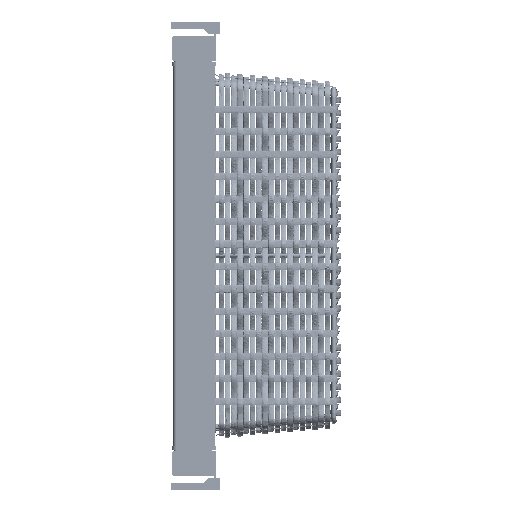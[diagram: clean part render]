
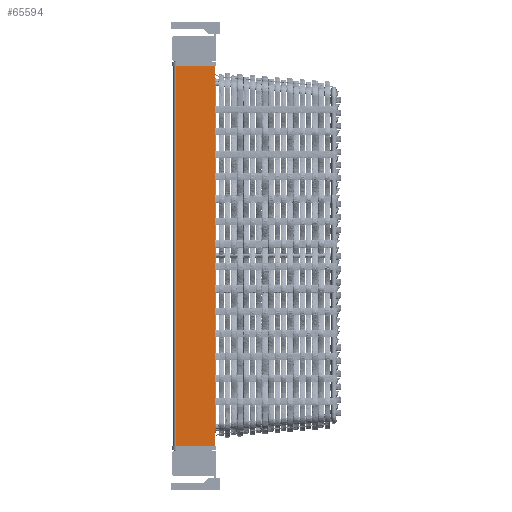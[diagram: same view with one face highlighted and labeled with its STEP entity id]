
A CAD part, left-side view. The second image highlights one B-rep face of the part: STEP entity #65594.
In plain terms, the highlighted planar face has unit normal (-1, 0, 0).
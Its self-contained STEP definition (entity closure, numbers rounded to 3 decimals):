
#534=PLANE('',#69090);
#4676=FACE_OUTER_BOUND('',#8404,.T.);
#8404=EDGE_LOOP('',(#61385,#61386,#61387,#61388));
#11329=LINE('',#818066,#12378);
#11521=LINE('',#818535,#12570);
#11548=LINE('',#818597,#12597);
#11549=LINE('',#818599,#12598);
#12378=VECTOR('',#75718,10.);
#12570=VECTOR('',#76180,10.);
#12597=VECTOR('',#76243,10.);
#12598=VECTOR('',#76246,10.);
#28205=VERTEX_POINT('',#818063);
#28206=VERTEX_POINT('',#818065);
#28346=VERTEX_POINT('',#818531);
#28348=VERTEX_POINT('',#818534);
#39204=EDGE_CURVE('',#28205,#28206,#11329,.T.);
#39436=EDGE_CURVE('',#28348,#28346,#11521,.T.);
#39468=EDGE_CURVE('',#28205,#28348,#11548,.T.);
#39469=EDGE_CURVE('',#28206,#28346,#11549,.T.);
#61385=ORIENTED_EDGE('',*,*,#39436,.T.);
#61386=ORIENTED_EDGE('',*,*,#39469,.F.);
#61387=ORIENTED_EDGE('',*,*,#39204,.F.);
#61388=ORIENTED_EDGE('',*,*,#39468,.T.);
#65594=ADVANCED_FACE('',(#4676),#534,.T.);
#69090=AXIS2_PLACEMENT_3D('',#818598,#76244,#76245);
#75718=DIRECTION('',(0.,1.,0.));
#76180=DIRECTION('',(0.,1.,0.));
#76243=DIRECTION('',(0.,0.,1.));
#76244=DIRECTION('center_axis',(-1.,0.,0.));
#76245=DIRECTION('ref_axis',(0.,-1.,0.));
#76246=DIRECTION('',(0.,0.,1.));
#818063=CARTESIAN_POINT('',(0.,0.,0.));
#818065=CARTESIAN_POINT('',(0.,46.,0.));
#818066=CARTESIAN_POINT('',(0.,0.,0.));
#818531=CARTESIAN_POINT('',(0.,46.,455.));
#818534=CARTESIAN_POINT('',(0.,0.,455.));
#818535=CARTESIAN_POINT('',(0.,35.088,455.));
#818597=CARTESIAN_POINT('',(0.,0.,0.));
#818598=CARTESIAN_POINT('Origin',(0.,46.,0.));
#818599=CARTESIAN_POINT('',(0.,46.,0.));
